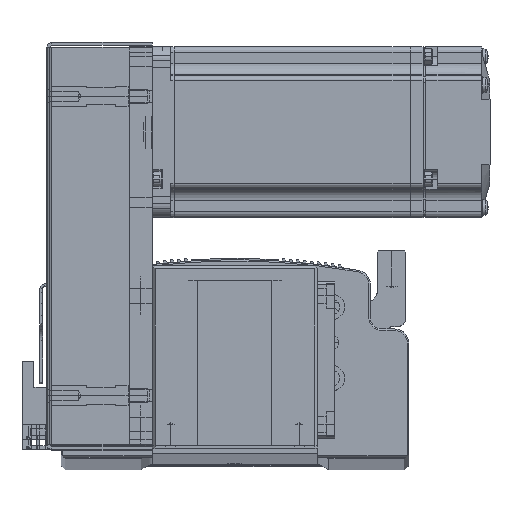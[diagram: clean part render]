
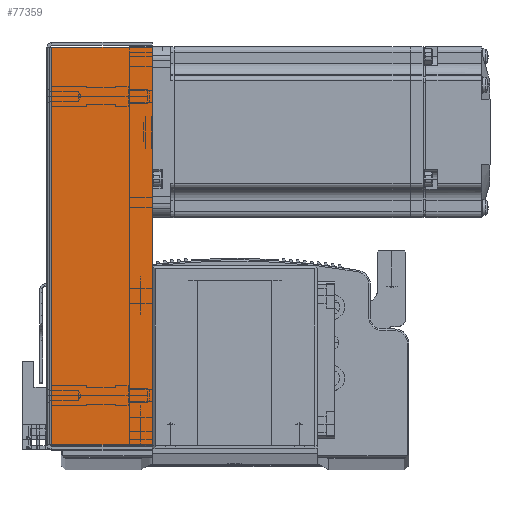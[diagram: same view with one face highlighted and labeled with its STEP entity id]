
A CAD part, top view. The second image highlights one B-rep face of the part: STEP entity #77359.
In plain terms, the highlighted planar face has unit normal (0, 0, 1) as drawn and (0, 0, -1) by its records, which use the part's own axes.
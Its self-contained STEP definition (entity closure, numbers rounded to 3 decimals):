
#65574 = VERTEX_POINT ( 'NONE', #81271 ) ;
#65590 = VERTEX_POINT ( 'NONE', #81443 ) ;
#65599 = VERTEX_POINT ( 'NONE', #81371 ) ;
#65601 = VERTEX_POINT ( 'NONE', #81445 ) ;
#74693 = CARTESIAN_POINT ( 'NONE',  ( 0., 0., -33.5 ) ) ;
#74712 = DIRECTION ( 'NONE',  ( 0., -1., 0. ) ) ;
#74714 = DIRECTION ( 'NONE',  ( 0., 0., 1. ) ) ;
#74725 = PLANE ( 'NONE',  #99455 ) ;
#76145 = EDGE_CURVE ( 'NONE', #65601, #65599, #97093, .T. ) ;
#76149 = EDGE_CURVE ( 'NONE', #65590, #65601, #97027, .T. ) ;
#76150 = EDGE_CURVE ( 'NONE', #65590, #65574, #97111, .T. ) ;
#76153 = EDGE_CURVE ( 'NONE', #65574, #65599, #97124, .T. ) ;
#77359 = ADVANCED_FACE ( 'NONE', ( #78615 ), #74725, .F. ) ;
#78615 = FACE_OUTER_BOUND ( 'NONE', #89330, .T. ) ;
#79582 = CARTESIAN_POINT ( 'NONE',  ( -69.793, 0., -33.5 ) ) ;
#79601 = DIRECTION ( 'NONE',  ( 0., 1., 0. ) ) ;
#79609 = CARTESIAN_POINT ( 'NONE',  ( 69.793, 0., -33.5 ) ) ;
#79617 = CARTESIAN_POINT ( 'NONE',  ( 0., 36., -33.5 ) ) ;
#79622 = CARTESIAN_POINT ( 'NONE',  ( 71.5, 0.737, -33.5 ) ) ;
#79625 = DIRECTION ( 'NONE',  ( 1., 0., 0. ) ) ;
#79627 = DIRECTION ( 'NONE',  ( 1., 0., 0. ) ) ;
#79671 = DIRECTION ( 'NONE',  ( 0., 1., 0. ) ) ;
#81271 = CARTESIAN_POINT ( 'NONE',  ( 69.793, 0.737, -33.5 ) ) ;
#81371 = CARTESIAN_POINT ( 'NONE',  ( 69.793, 36., -33.5 ) ) ;
#81443 = CARTESIAN_POINT ( 'NONE',  ( -69.793, 0.737, -33.5 ) ) ;
#81445 = CARTESIAN_POINT ( 'NONE',  ( -69.793, 36., -33.5 ) ) ;
#89330 = EDGE_LOOP ( 'NONE', ( #94145, #94059, #94116, #94135 ) ) ;
#94059 = ORIENTED_EDGE ( 'NONE', *, *, #76149, .T. ) ;
#94116 = ORIENTED_EDGE ( 'NONE', *, *, #76145, .T. ) ;
#94135 = ORIENTED_EDGE ( 'NONE', *, *, #76153, .F. ) ;
#94145 = ORIENTED_EDGE ( 'NONE', *, *, #76150, .F. ) ;
#97017 = VECTOR ( 'NONE', #79627, 1000. ) ;
#97025 = VECTOR ( 'NONE', #79625, 1000. ) ;
#97027 = LINE ( 'NONE', #79582, #97099 ) ;
#97057 = VECTOR ( 'NONE', #79671, 1000. ) ;
#97093 = LINE ( 'NONE', #79617, #97025 ) ;
#97099 = VECTOR ( 'NONE', #79601, 1000. ) ;
#97111 = LINE ( 'NONE', #79622, #97017 ) ;
#97124 = LINE ( 'NONE', #79609, #97057 ) ;
#99455 = AXIS2_PLACEMENT_3D ( 'NONE', #74693, #74714, #74712 ) ;
